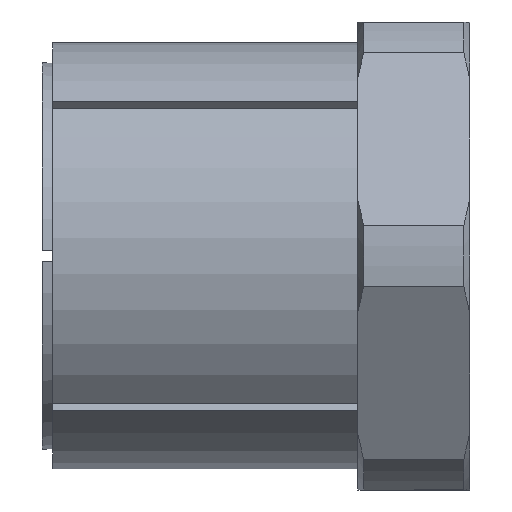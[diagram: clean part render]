
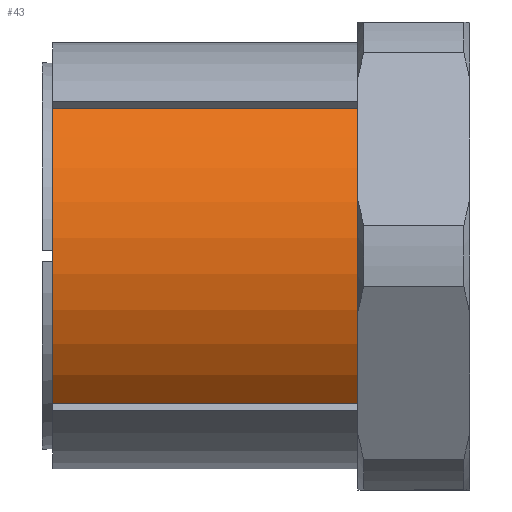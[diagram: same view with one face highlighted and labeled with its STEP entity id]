
A CAD part, front view. The second image highlights one B-rep face of the part: STEP entity #43.
In plain terms, the highlighted cylindrical face has radius 21 mm (diameter 42 mm), a partial arc.
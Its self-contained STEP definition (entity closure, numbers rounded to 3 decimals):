
#43 = ADVANCED_FACE ( 'NONE', ( #566 ), #557, .T. ) ;
#296 = VECTOR ( 'NONE', #1809, 1000. ) ;
#298 = LINE ( 'NONE', #1929, #296 ) ;
#314 = VECTOR ( 'NONE', #1524, 1000. ) ;
#316 = LINE ( 'NONE', #1579, #314 ) ;
#318 = CIRCLE ( 'NONE', #822, 21. ) ;
#328 = CIRCLE ( 'NONE', #829, 21. ) ;
#557 = CYLINDRICAL_SURFACE ( 'NONE', #934, 21. ) ;
#566 = FACE_OUTER_BOUND ( 'NONE', #721, .T. ) ;
#721 = EDGE_LOOP ( 'NONE', ( #2093, #2134, #2133, #1982 ) ) ;
#822 = AXIS2_PLACEMENT_3D ( 'NONE', #1240, #1582, #1528 ) ;
#829 = AXIS2_PLACEMENT_3D ( 'NONE', #1682, #1726, #1677 ) ;
#934 = AXIS2_PLACEMENT_3D ( 'NONE', #2313, #2566, #2338 ) ;
#1119 = EDGE_CURVE ( 'NONE', #2263, #2487, #328, .T. ) ;
#1126 = EDGE_CURVE ( 'NONE', #2591, #2534, #318, .T. ) ;
#1130 = EDGE_CURVE ( 'NONE', #2534, #2487, #316, .T. ) ;
#1142 = EDGE_CURVE ( 'NONE', #2263, #2591, #298, .T. ) ;
#1240 = CARTESIAN_POINT ( 'NONE',  ( 30., 0., 0. ) ) ;
#1346 = CARTESIAN_POINT ( 'NONE',  ( 0., -15.199, 14.491 ) ) ;
#1524 = DIRECTION ( 'NONE',  ( -1., 0., 0. ) ) ;
#1528 = DIRECTION ( 'NONE',  ( 0., 0., 1. ) ) ;
#1537 = CARTESIAN_POINT ( 'NONE',  ( 30., -15.199, -14.491 ) ) ;
#1550 = CARTESIAN_POINT ( 'NONE',  ( 30., -15.199, 14.491 ) ) ;
#1569 = CARTESIAN_POINT ( 'NONE',  ( 0., -15.199, -14.491 ) ) ;
#1579 = CARTESIAN_POINT ( 'NONE',  ( 0., -15.199, 14.491 ) ) ;
#1582 = DIRECTION ( 'NONE',  ( -1., 0., 0. ) ) ;
#1677 = DIRECTION ( 'NONE',  ( 0., 0., 1. ) ) ;
#1682 = CARTESIAN_POINT ( 'NONE',  ( 0., 0., 0. ) ) ;
#1726 = DIRECTION ( 'NONE',  ( -1., 0., 0. ) ) ;
#1809 = DIRECTION ( 'NONE',  ( 1., 0., 0. ) ) ;
#1929 = CARTESIAN_POINT ( 'NONE',  ( 0., -15.199, -14.491 ) ) ;
#1982 = ORIENTED_EDGE ( 'NONE', *, *, #1142, .T. ) ;
#2093 = ORIENTED_EDGE ( 'NONE', *, *, #1126, .T. ) ;
#2133 = ORIENTED_EDGE ( 'NONE', *, *, #1119, .F. ) ;
#2134 = ORIENTED_EDGE ( 'NONE', *, *, #1130, .T. ) ;
#2263 = VERTEX_POINT ( 'NONE', #1569 ) ;
#2313 = CARTESIAN_POINT ( 'NONE',  ( 0., 0., 0. ) ) ;
#2338 = DIRECTION ( 'NONE',  ( 0., 0., 1. ) ) ;
#2487 = VERTEX_POINT ( 'NONE', #1346 ) ;
#2534 = VERTEX_POINT ( 'NONE', #1550 ) ;
#2566 = DIRECTION ( 'NONE',  ( -1., 0., 0. ) ) ;
#2591 = VERTEX_POINT ( 'NONE', #1537 ) ;
